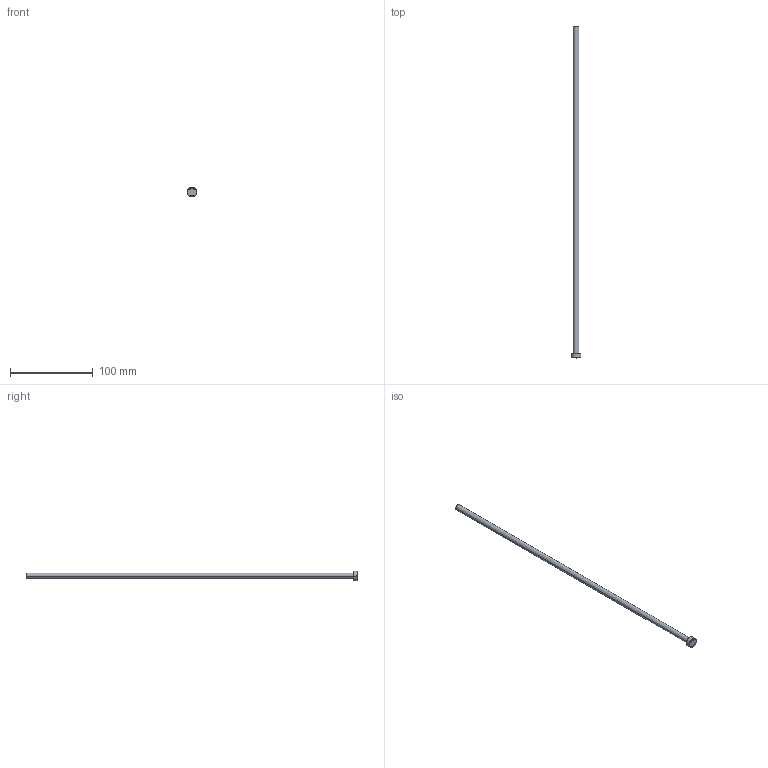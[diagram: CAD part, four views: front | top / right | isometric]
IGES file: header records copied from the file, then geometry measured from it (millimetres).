
Start section: SolidWorks IGES file using analytic representation for surfaces
Global section: file name: C:\Users\User\Downloads\Matripeça 31-08 tar\PB - PINO EXTRATOR TIPO _B_ (CATÁLOGO)\PB07,0\PB07,0400.IGS; native system: SolidWorks 2024; preprocessor: SolidWorks 2024; author: User; date: 260901.144907; units: millimetre
Bounding box: 12 x 400 x 12 mm (x, y, z)
Surface area: 9106.1 mm2 (no closed solid volume)
Topology: 0 solids, 0 shells, 396 faces, 3645 edges, 3645 vertices
Faces by surface type: bspline 382, revolution 14
